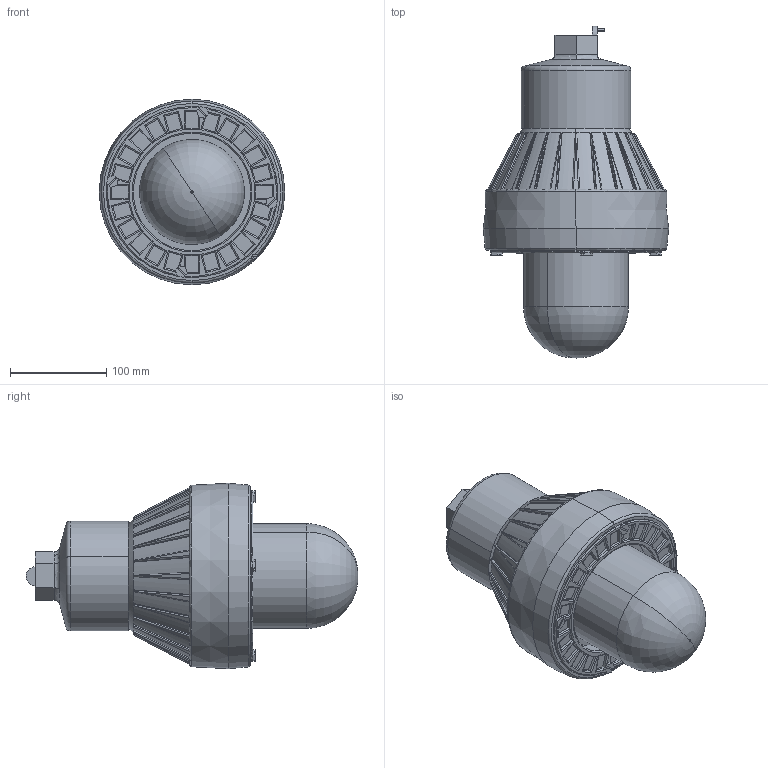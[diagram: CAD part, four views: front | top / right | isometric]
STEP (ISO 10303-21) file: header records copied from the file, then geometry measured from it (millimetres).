
FILE_DESCRIPTION (( 'STEP AP214' ), '1' );
FILE_NAME ('EPSL-80-141.STEP', '2010-09-18T02:53:39', ( 'Owner' ), ( 'HOME' ), 'SwSTEP 2.0', 'SolidWorks 2008', '' );
FILE_SCHEMA (( 'AUTOMOTIVE_DESIGN' ));
Length unit declared in the file: inch
Products named in the file (4): Pendant; Body; Lens; EPSL-80-141
Assembly tree (3 placements, depth 2):
  EPSL-80-141
    Pendant
    Lens
    Body
Bounding box: 192.68 x 345.01 x 192.68 mm (x, y, z)
Volume: 3646747.9 mm3; surface area: 306751.1 mm2
Topology: 3 solids, 3 shells, 555 faces, 1466 edges, 940 vertices
Faces by surface type: plane 317, cylinder 181, cone 30, torus 26, sphere 1
Entity records: 17471 total; most frequent: CARTESIAN_POINT 4538, ORIENTED_EDGE 2928, DIRECTION 2349, EDGE_CURVE 1464, VERTEX_POINT 939, VECTOR 801, LINE 801, AXIS2_PLACEMENT_3D 774
